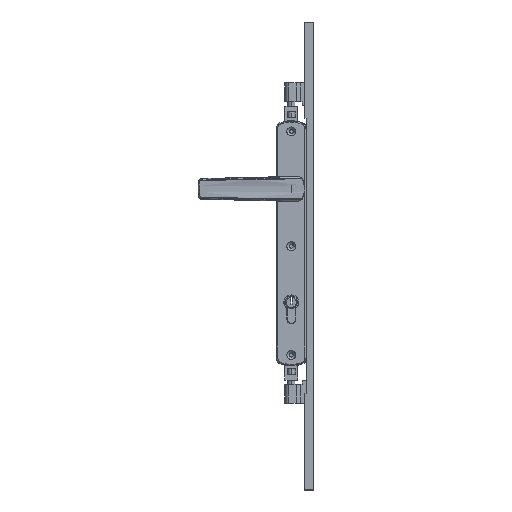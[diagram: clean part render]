
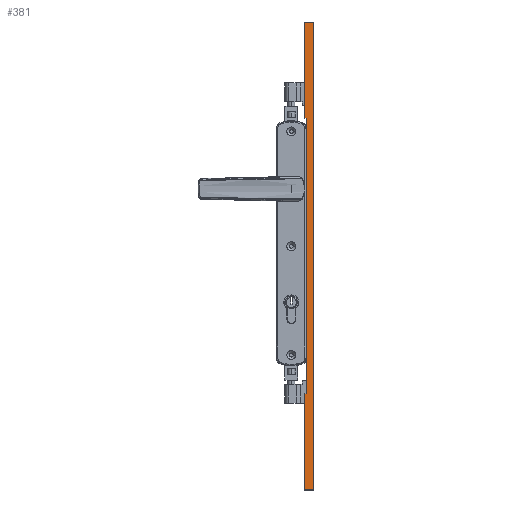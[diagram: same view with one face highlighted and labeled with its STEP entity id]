
A CAD part, top view. The second image highlights one B-rep face of the part: STEP entity #381.
In plain terms, the highlighted planar face has unit normal (0, 0, 1) as drawn and (1, 0, 0) by its records, which use the part's own axes.
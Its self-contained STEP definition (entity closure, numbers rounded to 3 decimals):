
#343 = CARTESIAN_POINT ( 'NONE',  ( 19.3, 1.6, 112. ) ) ;
#381 = ADVANCED_FACE ( 'NONE', ( #861 ), #21373, .T. ) ;
#861 = FACE_OUTER_BOUND ( 'NONE', #44574, .T. ) ;
#1184 = LINE ( 'NONE', #16891, #3250 ) ;
#2463 = EDGE_CURVE ( 'NONE', #45024, #16994, #36704, .T. ) ;
#2761 = DIRECTION ( 'NONE',  ( 0., -1., 0. ) ) ;
#3250 = VECTOR ( 'NONE', #13692, 1000. ) ;
#3364 = EDGE_CURVE ( 'NONE', #24892, #8324, #1184, .T. ) ;
#4146 = VERTEX_POINT ( 'NONE', #38760 ) ;
#4985 = VERTEX_POINT ( 'NONE', #45276 ) ;
#5463 = CARTESIAN_POINT ( 'NONE',  ( 19.3, 3.6, 552.963 ) ) ;
#6601 = EDGE_CURVE ( 'NONE', #22640, #28327, #47639, .T. ) ;
#6867 = EDGE_CURVE ( 'NONE', #22640, #4146, #36234, .T. ) ;
#7427 = CARTESIAN_POINT ( 'NONE',  ( 19.3, 1.6, 432. ) ) ;
#8324 = VERTEX_POINT ( 'NONE', #40419 ) ;
#11240 = DIRECTION ( 'NONE',  ( 0., -1., 0. ) ) ;
#12682 = ORIENTED_EDGE ( 'NONE', *, *, #21128, .F. ) ;
#13692 = DIRECTION ( 'NONE',  ( 0., 0., -1. ) ) ;
#16149 = ORIENTED_EDGE ( 'NONE', *, *, #2463, .T. ) ;
#16314 = DIRECTION ( 'NONE',  ( 0., 0., -1. ) ) ;
#16891 = CARTESIAN_POINT ( 'NONE',  ( 19.3, 12.4, 544. ) ) ;
#16994 = VERTEX_POINT ( 'NONE', #7427 ) ;
#17029 = DIRECTION ( 'NONE',  ( 0., 0., -1. ) ) ;
#18323 = VECTOR ( 'NONE', #2761, 1000. ) ;
#19639 = VECTOR ( 'NONE', #37951, 1000. ) ;
#20177 = AXIS2_PLACEMENT_3D ( 'NONE', #29564, #41360, #16314 ) ;
#21128 = EDGE_CURVE ( 'NONE', #8324, #28327, #31946, .T. ) ;
#21373 = PLANE ( 'NONE',  #20177 ) ;
#21697 = ORIENTED_EDGE ( 'NONE', *, *, #32232, .T. ) ;
#21812 = VECTOR ( 'NONE', #32562, 1000. ) ;
#22640 = VERTEX_POINT ( 'NONE', #343 ) ;
#24364 = CARTESIAN_POINT ( 'NONE',  ( 19.3, 10.4, 432. ) ) ;
#24892 = VERTEX_POINT ( 'NONE', #44801 ) ;
#28065 = VECTOR ( 'NONE', #39872, 1000. ) ;
#28327 = VERTEX_POINT ( 'NONE', #46105 ) ;
#29564 = CARTESIAN_POINT ( 'NONE',  ( 19.3, 10.4, 552.963 ) ) ;
#31677 = CARTESIAN_POINT ( 'NONE',  ( 19.3, 10.4, 112. ) ) ;
#31946 = LINE ( 'NONE', #47509, #52223 ) ;
#32214 = DIRECTION ( 'NONE',  ( 0., 1., 0. ) ) ;
#32232 = EDGE_CURVE ( 'NONE', #4985, #4146, #41960, .T. ) ;
#32562 = DIRECTION ( 'NONE',  ( 0., -1., 0. ) ) ;
#33122 = ORIENTED_EDGE ( 'NONE', *, *, #6601, .T. ) ;
#35872 = CARTESIAN_POINT ( 'NONE',  ( 19.3, 1.6, 544. ) ) ;
#36234 = LINE ( 'NONE', #31677, #43402 ) ;
#36704 = LINE ( 'NONE', #40753, #37164 ) ;
#37164 = VECTOR ( 'NONE', #17029, 1000. ) ;
#37951 = DIRECTION ( 'NONE',  ( 0., 0., -1. ) ) ;
#38539 = ORIENTED_EDGE ( 'NONE', *, *, #45845, .T. ) ;
#38689 = CARTESIAN_POINT ( 'NONE',  ( 19.3, 10.4, 544. ) ) ;
#38760 = CARTESIAN_POINT ( 'NONE',  ( 19.3, 3.6, 112. ) ) ;
#39553 = ORIENTED_EDGE ( 'NONE', *, *, #3364, .F. ) ;
#39872 = DIRECTION ( 'NONE',  ( 0., 0., -1. ) ) ;
#40419 = CARTESIAN_POINT ( 'NONE',  ( 19.3, 12.4, 0. ) ) ;
#40753 = CARTESIAN_POINT ( 'NONE',  ( 19.3, 1.6, 552.963 ) ) ;
#41157 = LINE ( 'NONE', #24364, #21812 ) ;
#41360 = DIRECTION ( 'NONE',  ( 1., 0., 0. ) ) ;
#41960 = LINE ( 'NONE', #5463, #19639 ) ;
#43225 = ORIENTED_EDGE ( 'NONE', *, *, #6867, .F. ) ;
#43402 = VECTOR ( 'NONE', #32214, 1000. ) ;
#44574 = EDGE_LOOP ( 'NONE', ( #51281, #21697, #43225, #33122, #12682, #39553, #38539, #16149 ) ) ;
#44801 = CARTESIAN_POINT ( 'NONE',  ( 19.3, 12.4, 544. ) ) ;
#45024 = VERTEX_POINT ( 'NONE', #35872 ) ;
#45276 = CARTESIAN_POINT ( 'NONE',  ( 19.3, 3.6, 432. ) ) ;
#45845 = EDGE_CURVE ( 'NONE', #24892, #45024, #47260, .T. ) ;
#46105 = CARTESIAN_POINT ( 'NONE',  ( 19.3, 1.6, 0. ) ) ;
#47260 = LINE ( 'NONE', #38689, #18323 ) ;
#47509 = CARTESIAN_POINT ( 'NONE',  ( 19.3, 10.4, 0. ) ) ;
#47639 = LINE ( 'NONE', #51615, #28065 ) ;
#48844 = EDGE_CURVE ( 'NONE', #4985, #16994, #41157, .T. ) ;
#51281 = ORIENTED_EDGE ( 'NONE', *, *, #48844, .F. ) ;
#51615 = CARTESIAN_POINT ( 'NONE',  ( 19.3, 1.6, 552.963 ) ) ;
#52223 = VECTOR ( 'NONE', #11240, 1000. ) ;
